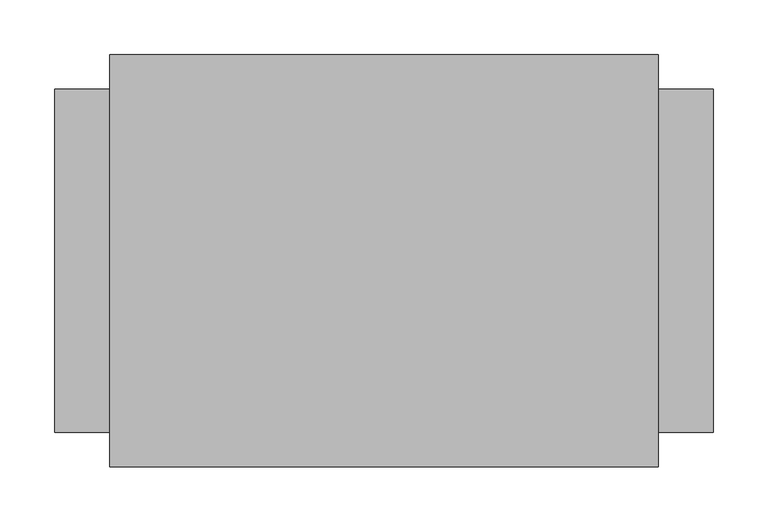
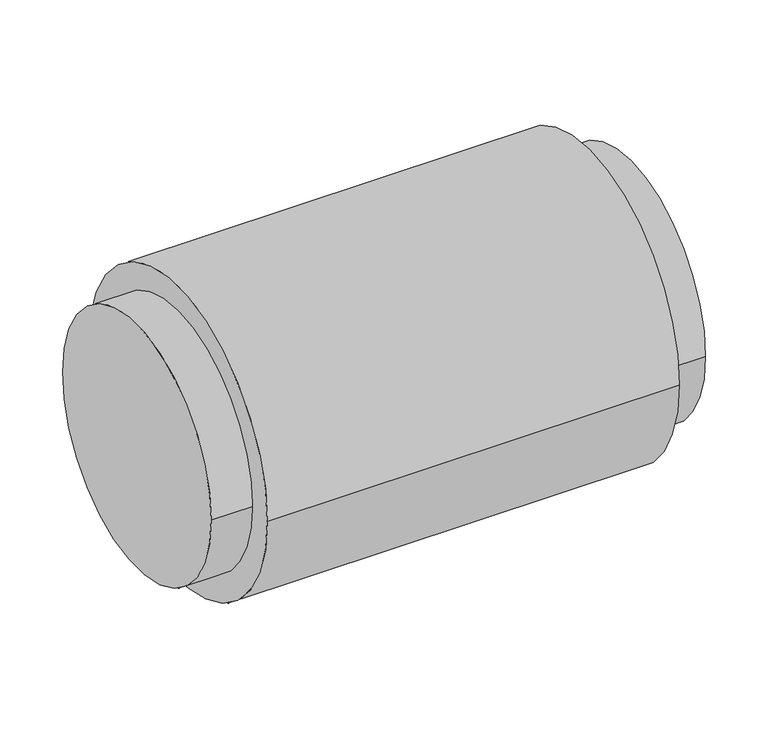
"""IFC4 building model written with IfcOpenShell, lengths in millimetres: damper geometry, VE-Tłumik_Akustyczny-ParaForma-Harmann-FLEXITEC : 315-0500."""

from ifc_helpers import new_model, si_unit, point, frame, origin, origin_2d, place, context, project, spatial, circle_curve, trimmed, segment, composite_curve, outline, extrude, source, transform, mapped, element, save


def damper_550c58bf(model_context):
    return source(origin(), model_context, "Body", "SweptSolid", [
        extrude(outline(composite_curve([segment(trimmed(circle_curve(origin_2d(), 156.5), [point((-156.5, 0.0))], [point((156.5, 0.0))], False, "CARTESIAN"), True, "CONTINUOUS"), segment(trimmed(circle_curve(origin_2d(), 156.5), [point((156.5, 0.0))], [point((-156.5, 0.0))], False, "CARTESIAN"), True, "CONTINUOUS")], self_intersect=False)), frame((250.0, 0.0, 0.0), z_axis=(1.0, 0.0, 0.0), x_axis=(0.0, 1.0, 0.0)), (0.0, 0.0, 1.0), 50.0),
        extrude(outline(composite_curve([segment(trimmed(circle_curve(origin_2d(), 156.5), [point((-156.5, 0.0))], [point((156.5, 0.0))], False, "CARTESIAN"), True, "CONTINUOUS"), segment(trimmed(circle_curve(origin_2d(), 156.5), [point((156.5, 0.0))], [point((-156.5, 0.0))], False, "CARTESIAN"), True, "CONTINUOUS")], self_intersect=False)), frame((-300.0, 0.0, 0.0), z_axis=(1.0, 0.0, 0.0), x_axis=(0.0, 1.0, 0.0)), (0.0, 0.0, 1.0), 50.0),
        extrude(outline(composite_curve([segment(trimmed(circle_curve(origin_2d(), 187.95), [point((-187.95, 0.0))], [point((187.95, 0.0))], False, "CARTESIAN"), True, "CONTINUOUS"), segment(trimmed(circle_curve(origin_2d(), 187.95), [point((187.95, 0.0))], [point((-187.95, 0.0))], False, "CARTESIAN"), True, "CONTINUOUS")], self_intersect=False)), frame((-250.0, 0.0, 0.0), z_axis=(1.0, 0.0, 0.0), x_axis=(0.0, 1.0, 0.0)), (0.0, 0.0, 1.0), 500.0),
    ])


if __name__ == "__main__":
    model = new_model("IFC4")
    model_context = context("Model", 3, world=origin())
    ifc_project = project(units=[si_unit("LENGTHUNIT", "METRE", prefix="MILLI")], contexts=[model_context])
    site = spatial("IfcSite", under=ifc_project)
    building = spatial("IfcBuilding", under=site)
    placement = place(None, origin())
    damper_shape = damper_550c58bf(model_context)
    element("IfcDamper", 1, ObjectType="VE-Tłumik_Akustyczny-ParaForma-Harmann-FLEXITEC : 315-0500", at=placement, inside=building, context=model_context, shape_type="MappedRepresentation", body=[
        mapped(damper_shape, transform((0.0, 0.0, 0.0), x_axis=(1.0, 0.0, 0.0), y_axis=(0.0, 1.0, 0.0), z_axis=(0.0, 0.0, 1.0))),
    ])
    save(model, "model.ifc")
